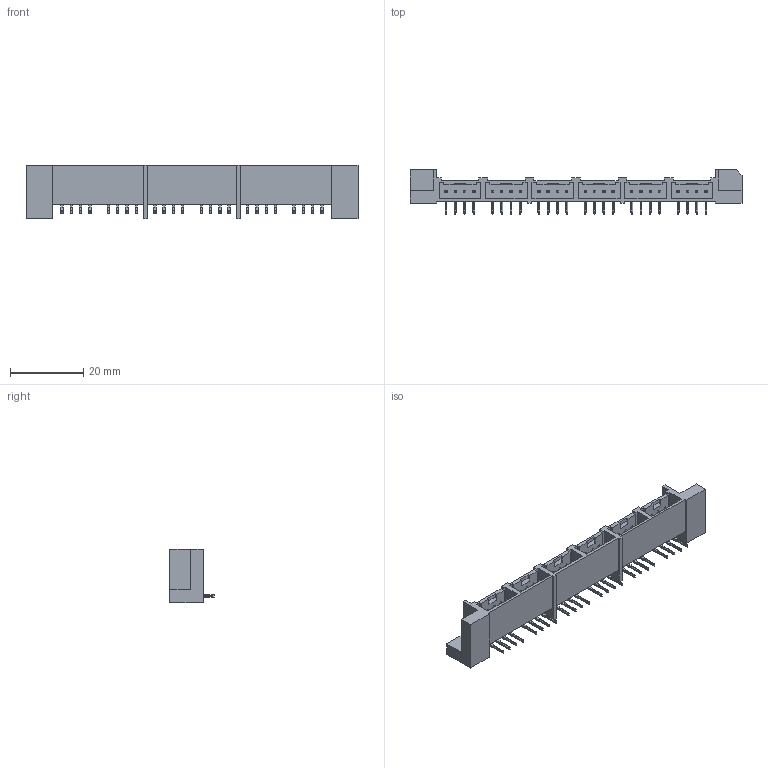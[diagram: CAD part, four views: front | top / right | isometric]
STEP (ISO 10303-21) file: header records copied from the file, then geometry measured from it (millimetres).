
FILE_DESCRIPTION (( 'STEP AP203' ), '1' );
FILE_NAME ('232D-24P1X-L15N-FA.STEP', '2022-02-21T08:30:18', ( '' ), ( '' ), 'SwSTEP 2.0', 'SolidWorks 2018', '' );
FILE_SCHEMA (( 'CONFIG_CONTROL_DESIGN' ));
Length unit declared in the file: millimetre
Products named in the file (1): 232D-24P1X-L15N-FA
Bounding box: 90.82 x 12.2 x 14.5 mm (x, y, z)
Volume: 3920.1 mm3; surface area: 5946.2 mm2
Topology: 1 solids, 1 shells, 1029 faces, 2937 edges, 1958 vertices
Faces by surface type: plane 753, cylinder 276
Entity records: 33848 total; most frequent: CARTESIAN_POINT 7941, ORIENTED_EDGE 5874, DIRECTION 4781, EDGE_CURVE 2937, LINE 2193, VECTOR 2193, VERTEX_POINT 1958, AXIS2_PLACEMENT_3D 1294
